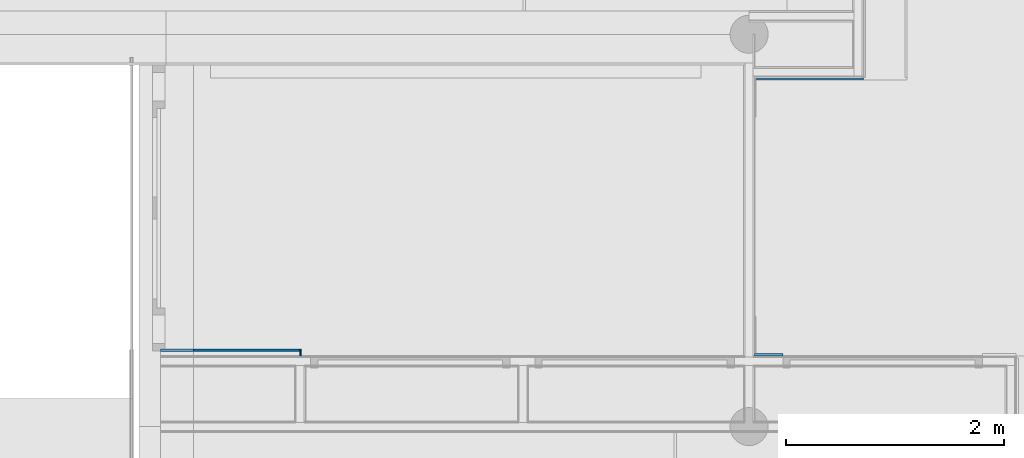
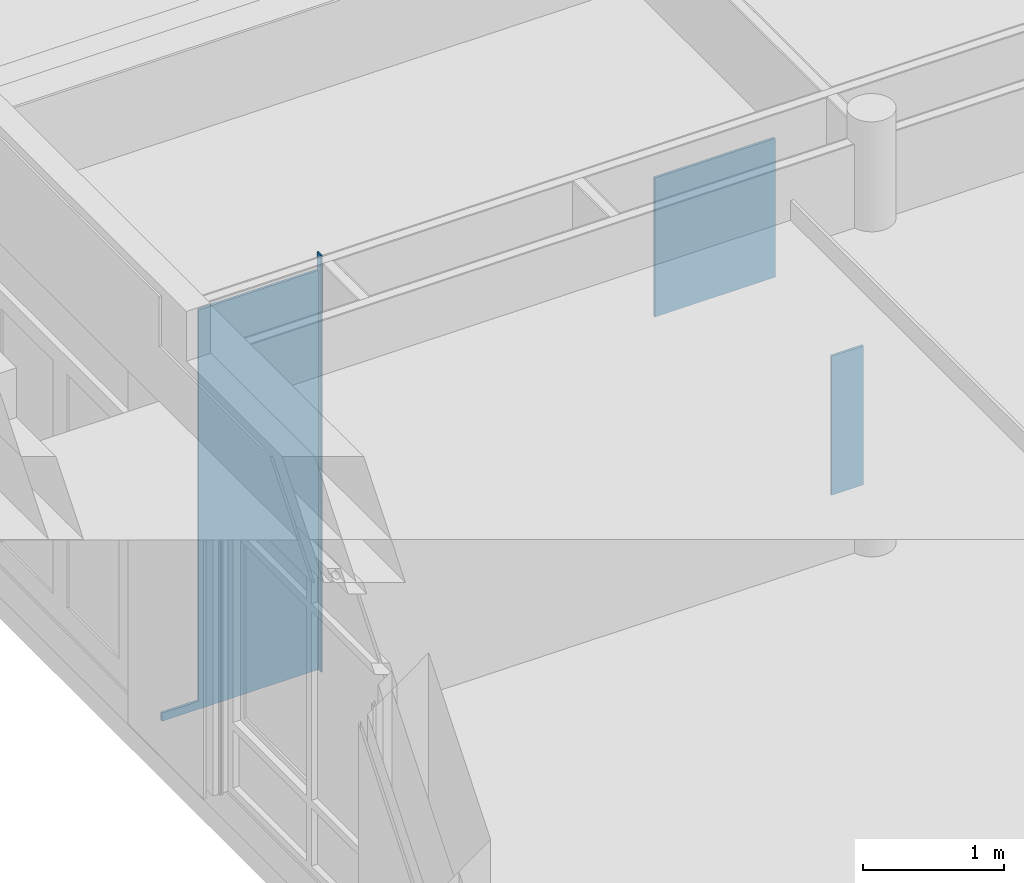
# One storey, part 14 of 167: 4 walls.
"""IFC2X3 building model written with IfcOpenShell, lengths in millimetres."""

from ifc_helpers import new_model, entity, si_unit, converted_unit, derived_unit, money_unit, direction, frame, origin_with_axes, place, context, subcontext, project, spatial, faceted_brep, material, type_object, element, save


model = new_model("IFC2X3")

# Units and contexts
model_context = context("Model", 3, precision=0.01, world=origin_with_axes(), true_north=direction((0.0, 1.0)))
plan_context = context("Plan", 3, precision=0.01, world=origin_with_axes(), true_north=direction((0.0, 1.0)))
body_context = subcontext(model_context, "Body", "Model", "MODEL_VIEW")
ifc_project = project(units=[si_unit("LENGTHUNIT", "METRE", prefix="MILLI"), si_unit("AREAUNIT", "SQUARE_METRE"), si_unit("VOLUMEUNIT", "CUBIC_METRE"), converted_unit("PLANEANGLEUNIT", "DEGREE", entity("IfcPlaneAngleMeasure", 0.0174532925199), si_unit("PLANEANGLEUNIT", "RADIAN"), dimensions=[0, 0, 0, 0, 0, 0, 0]), si_unit("SOLIDANGLEUNIT", "STERADIAN"), money_unit("EUR"), converted_unit("TIMEUNIT", "Year", entity("IfcTimeMeasure", 31556926.0), si_unit("TIMEUNIT", "SECOND"), dimensions=[0, 0, 1, 0, 0, 0, 0]), si_unit("MASSUNIT", "GRAM", prefix="KILO"), si_unit("THERMODYNAMICTEMPERATUREUNIT", "DEGREE_CELSIUS"), si_unit("LUMINOUSINTENSITYUNIT", "LUMEN"), si_unit("ENERGYUNIT", "JOULE", prefix="MEGA"), derived_unit("THERMALCONDUCTANCEUNIT", [(si_unit("POWERUNIT", "WATT"), 1), (si_unit("LENGTHUNIT", "METRE"), -1), (si_unit("THERMODYNAMICTEMPERATUREUNIT", "KELVIN"), -1)]), derived_unit("SPECIFICHEATCAPACITYUNIT", [(si_unit("ENERGYUNIT", "JOULE"), 1), (si_unit("MASSUNIT", "GRAM", prefix="KILO"), -1), (si_unit("THERMODYNAMICTEMPERATUREUNIT", "KELVIN"), -1)]), derived_unit("MASSDENSITYUNIT", [(si_unit("MASSUNIT", "GRAM", prefix="KILO"), 1), (si_unit("VOLUMEUNIT", "CUBIC_METRE"), -1)])], contexts=[model_context, plan_context])

# Site, building, storey
site_placement = place(None, origin_with_axes())
site = spatial("IfcSite", under=ifc_project, at=site_placement, Name="Site", CompositionType="ELEMENT")
building_placement = place(site_placement, origin_with_axes())
building = spatial("IfcBuilding", under=site, at=building_placement, Name="Naam gebouw", CompositionType="ELEMENT")
storey_placement = place(building_placement, origin_with_axes())
storey = spatial("IfcBuildingStorey", under=building, at=storey_placement, Name="Begane grond", CompositionType="ELEMENT", Elevation=0.0)

# Walls
ifc_material_1 = material(Name="_TenW_21_Hout betimmering")
wall_type_1 = type_object("IfcWallType", Name="_TenW_22_Spouwmuur ht-150-kz RC 0 60", PredefinedType="NOTDEFINED")
wall_1_placement = place(storey_placement, frame((1800.0, 18650.0, -100.0), z_axis=(0.0, 0.0, 1.0), x_axis=(1.0, 0.0, 0.0)))
element("IfcWall", 1, at=wall_1_placement, inside=storey, type_object=wall_type_1, material=ifc_material_1, Name="21_Wand_Wand-x", context=body_context, shape_type="Brep", body=[
    faceted_brep([(1277.67102829, 60.0, 3480.00000224), (1277.67102829, 40.0, 3480.00000224), (1277.67102829, 40.0, 30.0), (1277.67102829, 60.0, 30.0), (300.0, 40.0, 3480.00000224), (300.0, 60.0, 3480.00000224), (300.0, 40.0, 100.0), (0.0, 40.0, 100.0), (0.0, 40.0, 30.0), (0.0, 60.0, 30.0), (0.0, 60.0, 100.0), (300.0, 60.0, 100.0)], [[[0, 1, 2, 3]], [[4, 1, 0, 5]], [[6, 7, 8, 2, 1, 4]], [[2, 8, 9, 3]], [[5, 0, 3, 9, 10, 11]], [[5, 11, 6, 4]], [[10, 7, 6, 11]], [[7, 10, 9, 8]]]),
])
ifc_material_2 = material(Name="Gipsplaat")
wall_type_2 = type_object("IfcWallType", Name="Gipsplaat 12", PredefinedType="NOTDEFINED")
wall_2_placement = place(storey_placement, frame((3090.67102829, 18710.0, -100.0), z_axis=(0.0, 0.0, 1.0), x_axis=(0.0, -1.0, 0.0)))
element("IfcWall", 2, at=wall_2_placement, inside=storey, type_object=wall_type_2, material=ifc_material_2, Name="21_Wand_Wand-x", context=body_context, shape_type="Brep", body=[
    faceted_brep([(0.0, -13.0, 30.0), (0.0, -13.0, 3630.0), (0.0, -1.0, 3630.0), (0.0, -1.0, 30.0), (60.0, -13.0, 30.0), (60.0, -13.0, 3630.0), (60.0, -1.0, 3630.0), (60.0, -1.0, 30.0)], [[[0, 1, 2, 3]], [[4, 5, 1, 0]], [[5, 6, 2, 1]], [[3, 2, 6, 7]], [[4, 0, 3, 7]], [[7, 6, 5, 4]]]),
])
ifc_material_3 = material(Name="Hout - Spaanplaat")
wall_type_3 = type_object("IfcWallType", Name="Hout - Spaanplaat 20", PredefinedType="NOTDEFINED")
wall_3_placement = place(storey_placement, frame((7266.48539088, 21180.0, 0.0), z_axis=(0.0, 0.0, 1.0), x_axis=(1.0, 0.0, 0.0)))
element("IfcWall", 3, at=wall_3_placement, inside=storey, type_object=wall_type_3, material=ifc_material_3, Name="21_Wand_Wand-x", context=body_context, shape_type="Brep", body=[
    faceted_brep([(0.0, 20.0, 0.0), (982.771575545, 20.0, 0.0), (982.771575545, 0.0, 0.0), (0.0, 0.0, 0.0), (0.0, 20.0, 1200.0), (982.771575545, 20.0, 1200.0), (982.771575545, 0.0, 1200.0), (0.0, 0.0, 1200.0)], [[[0, 1, 2, 3]], [[4, 5, 1, 0]], [[2, 1, 5, 6]], [[3, 2, 6, 7]], [[4, 0, 3, 7]], [[7, 6, 5, 4]]]),
])
wall_4_placement = place(storey_placement, frame((7200.0, 18650.0, 0.0), z_axis=(0.0, 0.0, 1.0), x_axis=(1.0, 0.0, 0.0)))
element("IfcWall", 4, at=wall_4_placement, inside=storey, type_object=wall_type_3, material=ifc_material_3, Name="21_Wand_Wand-x", context=body_context, shape_type="Brep", body=[
    faceted_brep([(49.9999852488, 20.0, 0.0), (49.9999852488, 20.0, 1200.0), (309.080047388, 20.0, 1200.0), (309.080047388, 20.0, 0.0), (49.9999852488, 0.0, 1200.0), (49.9999852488, 0.0, 0.0), (309.080047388, 0.0, 1200.0), (309.080047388, 0.0, 0.0)], [[[0, 1, 2, 3]], [[4, 1, 0, 5]], [[1, 4, 6, 2]], [[6, 7, 3, 2]], [[5, 0, 3, 7]], [[4, 5, 7, 6]]]),
])

save(model, "model.ifc")
